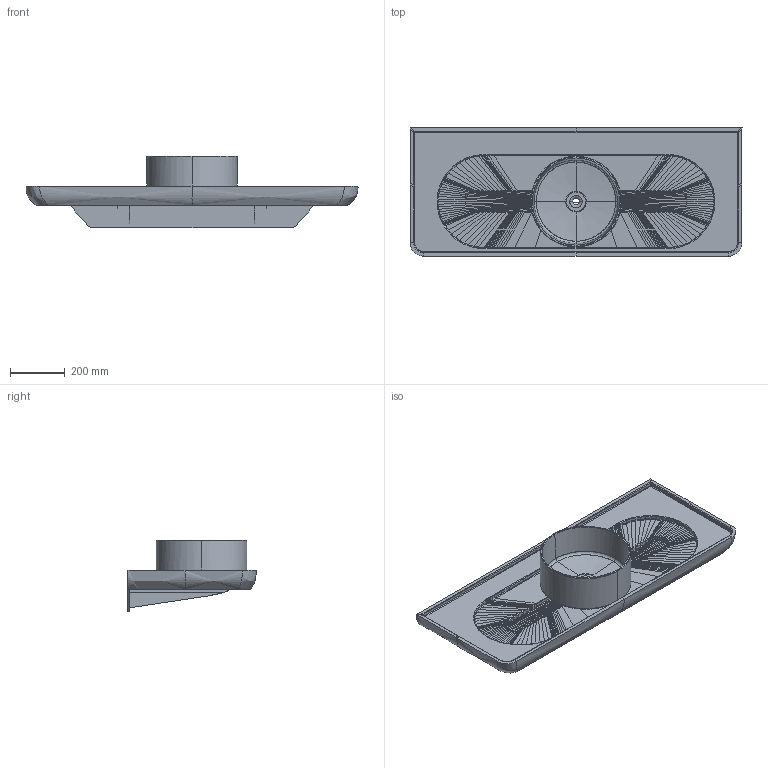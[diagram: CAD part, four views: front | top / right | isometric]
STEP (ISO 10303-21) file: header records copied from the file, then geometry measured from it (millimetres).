
FILE_DESCRIPTION(/* description */ (''),/* implementation_level */ '2;1');
FILE_NAME(/* name */ 'MEDITE~1',/* time_stamp */ '2023-12-10T17:51:20+01:00',/* author */ (''),/* organization */ (''),/* preprocessor_version */ 'ST-DEVELOPER v16.5',/* originating_system */ '',/* authorisation */ '');
FILE_SCHEMA (('CONFIG_CONTROL_DESIGN'));
Products named in the file (2): Document; Blocco 01
Assembly tree (1 placements, depth 2):
  Document
    Blocco 01
Bounding box: 1210.03 x 468.01 x 261.91 mm (x, y, z)
Volume: 3621858 mm3; surface area: 2312584.4 mm2
Topology: 6 solids, 9 shells, 2115 faces, 6106 edges, 3983 vertices
Faces by surface type: bspline 1444, cylinder 366, plane 305
Entity records: 153781 total; most frequent: CARTESIAN_POINT 117689, ORIENTED_EDGE 12139, EDGE_CURVE 6086, B_SPLINE_CURVE_WITH_KNOTS 4043, VERTEX_POINT 3983, EDGE_LOOP 2141, ADVANCED_FACE 2115, FACE_OUTER_BOUND 2115
